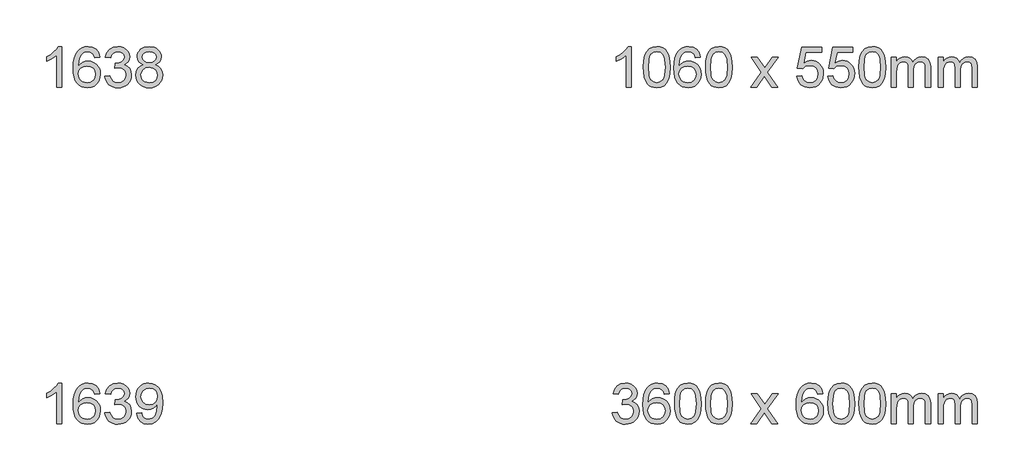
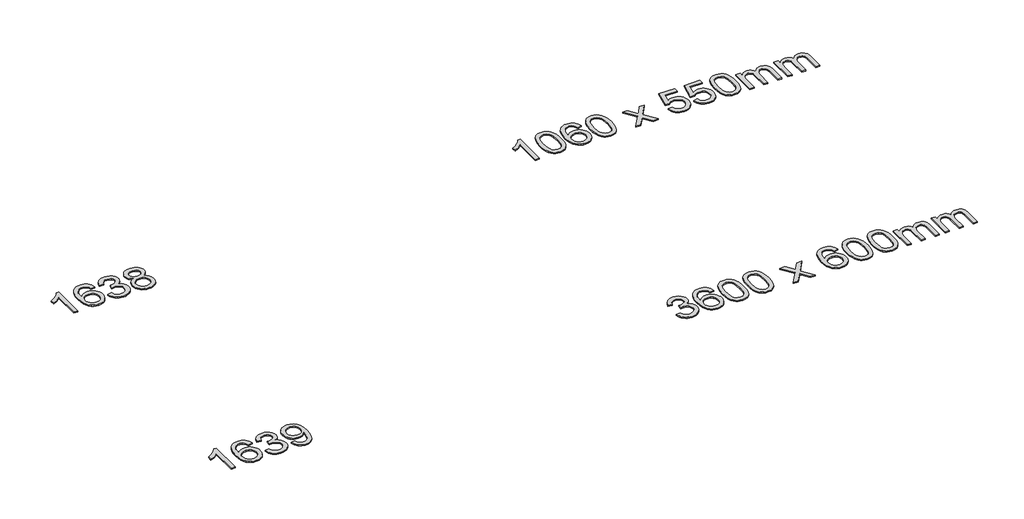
# One storey, part 36 of 39: 4 proxies.
"""IFC4 building model written with IfcOpenShell, lengths in millimetres."""

from ifc_helpers import new_model, si_unit, origin, origin_with_axes, place, context, project, spatial, polyline, outline, extrude, element, save

model = new_model("IFC4")

# Units and contexts
model_context = context("Model", 3, world=origin())
ifc_project = project(units=[si_unit("LENGTHUNIT", "METRE", prefix="MILLI")], contexts=[model_context])

# Site, building, storey
site = spatial("IfcSite", under=ifc_project)
building = spatial("IfcBuilding", under=site)
storey = spatial("IfcBuildingStorey", under=building, Name="Marelli - Linha PROFIT - Planta Baixa", Elevation=0.0)

# Proxies
placement = place(None, origin())
element("IfcBuildingElementProxy", 1, Name="300mm Arial", ObjectType="300mm Arial", at=placement, inside=storey, context=model_context, shape_type="SweptSolid", body=[
    extrude(outline(polyline([(24682.3108242, 6719.4336799), (24644.6397079, 6719.4336799), (24644.6397079, 6954.2895457), (24608.9551543, 6928.8688998), (24569.2974753, 6909.8494006), (24569.2974753, 6945.4603778), (24598.8843847, 6961.5552151), (24624.5165627, 6980.7034729), (24644.7224813, 7001.0657413), (24658.0306125, 7020.8026104), (24682.3108242, 7020.8026104), (24682.3108242, 6719.4336799)])), origin_with_axes(), (0.0, 0.0, 1.0), 10.0),
    extrude(outline(polyline([(24771.7797254, 6867.690124), (24774.5480374, 6915.9286506), (24782.8529735, 6954.3999103), (24796.6117601, 6983.6925141), (24815.7416238, 7004.3950734), (24840.3805205, 7016.7007261), (24870.6664057, 7020.8026104), (24893.8797596, 7018.3745892), (24914.6650923, 7011.0905257), (24932.0475166, 6999.2355284), (24945.0521451, 6983.0947059), (24954.8745944, 6962.8060138), (24962.7104809, 6938.5074081), (24967.8424347, 6907.6513057), (24969.553086, 6867.690124), (24966.8123652, 6819.7275089), (24958.5902026, 6781.3482197), (24944.9141894, 6752.0280247), (24925.8119168, 6731.242692), (24901.1178379, 6718.8542658), (24870.6664057, 6714.7247904), (24849.9178612, 6716.5182151), (24831.5237614, 6721.8984893), (24815.4841064, 6730.8656129), (24801.7988962, 6743.419586), (24788.665509, 6766.1133066), (24779.2845181, 6794.3896364), (24773.6559236, 6828.2485756), (24771.7797254, 6867.690124)]), holes=[polyline([(24809.4508417, 6867.7637004), (24813.8654257, 6808.507108), (24819.3836556, 6788.2391093), (24827.1091775, 6774.211309), (24846.8276524, 6757.8497573), (24870.6664057, 6752.3959067), (24894.505159, 6757.8681514), (24914.2236339, 6774.2848854), (24921.9491558, 6788.3356784), (24927.4673858, 6808.5990785), (24931.8819697, 6867.7637004), (24927.6145386, 6925.6867205), (24922.2802496, 6945.8880406), (24914.8122451, 6960.249234), (24895.1305584, 6977.410929), (24870.2249473, 6983.1314941), (24846.6437114, 6978.0915107), (24827.6977887, 6962.9715607), (24819.7147494, 6947.3365759), (24814.0125785, 6926.2569376), (24809.4508417, 6867.7637004)])]), origin_with_axes(), (0.0, 0.0, 1.0), 10.0),
    extrude(outline(polyline([(25195.5797839, 6940.7514882), (25157.9086676, 6936.0425987), (25151.8386146, 6954.7126099), (25143.6348461, 6967.4597211), (25126.5467275, 6979.2135508), (25105.8901534, 6983.1314941), (25088.3789705, 6980.8506257), (25071.8978571, 6974.0080206), (25057.7435973, 6959.5962434), (25046.1829056, 6939.7582068), (25038.3746103, 6911.6980077), (25035.4775396, 6872.6197427), (25050.5882925, 6890.2504873), (25068.6972837, 6902.6757017), (25088.7928377, 6910.0425387), (25109.863279, 6912.498151), (25127.9630731, 6910.8196894), (25144.6649157, 6905.7843046), (25159.9688067, 6897.3919966), (25173.8747461, 6885.6427654), (25185.4308393, 6871.2355867), (25193.6851916, 6854.8694365), (25198.6378029, 6836.5443146), (25200.2886734, 6816.2602211), (25197.1800705, 6789.2852738), (25187.854262, 6764.2784951), (25173.0837999, 6743.0700981), (25153.6412364, 6727.4902956), (25130.4094884, 6717.9161667), (25104.2714727, 6714.7247904), (25081.8145761, 6716.8401119), (25061.5327819, 6723.1860763), (25043.4260899, 6733.7626836), (25027.4945003, 6748.5699339), (25014.5059666, 6768.2332266), (25005.2284425, 6793.377961), (24999.6619281, 6824.0041371), (24997.8064233, 6860.1117549), (24999.8665624, 6900.5925699), (25006.0469799, 6935.1412878), (25016.3476758, 6963.7579085), (25030.76865, 6986.442432), (25046.3990363, 7001.4750101), (25064.5218231, 7012.2125658), (25085.1370104, 7018.6550992), (25108.2445982, 7020.8026104), (25141.2987955, 7015.4867156), (25167.767905, 6999.5390311), (25186.3091576, 6974.2103557), (25195.5797839, 6940.7514882)]), holes=[polyline([(25035.4775396, 6816.8488323), (25037.6572404, 6800.1561867), (25044.1963428, 6784.2176993), (25054.3498859, 6770.514095), (25067.3729085, 6760.5260988), (25083.0906668, 6754.4284547), (25101.3284167, 6752.3959067), (25126.1880425, 6756.6081555), (25145.7317735, 6769.2449021), (25158.3961112, 6789.1105298), (25162.6175571, 6815.0094223), (25158.4512935, 6839.8690481), (25145.9525027, 6858.8241679), (25126.0776779, 6870.826318), (25099.7833123, 6874.8270347), (25074.9604747, 6870.826318), (25054.2027331, 6858.8241679), (25040.1588379, 6840.3289006), (25035.4775396, 6816.8488323)])]), origin_with_axes(), (0.0, 0.0, 1.0), 10.0),
    extrude(outline(polyline([(25233.2509002, 6867.690124), (25236.0192122, 6915.9286506), (25244.3241482, 6954.3999103), (25258.0829348, 6983.6925141), (25277.2127986, 7004.3950734), (25301.8516952, 7016.7007261), (25332.1375805, 7020.8026104), (25355.3509344, 7018.3745892), (25376.1362671, 7011.0905257), (25393.5186914, 6999.2355284), (25406.5233199, 6983.0947059), (25416.3457692, 6962.8060138), (25424.1816557, 6938.5074081), (25429.3136095, 6907.6513057), (25431.0242608, 6867.690124), (25428.2835399, 6819.7275089), (25420.0613773, 6781.3482197), (25406.3853641, 6752.0280247), (25387.2830915, 6731.242692), (25362.5890126, 6718.8542658), (25332.1375805, 6714.7247904), (25311.3890359, 6716.5182151), (25292.9949362, 6721.8984893), (25276.9552812, 6730.8656129), (25263.270071, 6743.419586), (25250.1366837, 6766.1133066), (25240.7556929, 6794.3896364), (25235.1270983, 6828.2485756), (25233.2509002, 6867.690124)]), holes=[polyline([(25270.9220165, 6867.7637004), (25275.3366004, 6808.507108), (25280.8548303, 6788.2391093), (25288.5803522, 6774.211309), (25308.2988272, 6757.8497573), (25332.1375805, 6752.3959067), (25355.9763338, 6757.8681514), (25375.6948087, 6774.2848854), (25383.4203306, 6788.3356784), (25388.9385605, 6808.5990785), (25393.3531445, 6867.7637004), (25389.0857133, 6925.6867205), (25383.7514244, 6945.8880406), (25376.2834199, 6960.249234), (25356.6017331, 6977.410929), (25331.6961221, 6983.1314941), (25308.1148862, 6978.0915107), (25289.1689634, 6962.9715607), (25281.1859241, 6947.3365759), (25275.4837532, 6926.2569376), (25270.9220165, 6867.7637004)])]), origin_with_axes(), (0.0, 0.0, 1.0), 10.0),
    extrude(outline(polyline([(25567.5820574, 6719.4336799), (25648.0746379, 6830.6811953), (25572.2909469, 6940.7514882), (25617.6140087, 6940.7514882), (25654.181479, 6887.7764809), (25671.2512036, 6862.7605053), (25686.0400598, 6883.2147442), (25727.6843017, 6940.7514882), (25773.0073635, 6940.7514882), (25693.3976997, 6830.6811953), (25770.0643075, 6719.4336799), (25724.7412457, 6719.4336799), (25678.6088435, 6786.3146267), (25670.1475576, 6798.5283089), (25612.9051192, 6719.4336799), (25567.5820574, 6719.4336799)])), origin_with_axes(), (0.0, 0.0, 1.0), 10.0),
    extrude(outline(polyline([(25911.3309937, 6799.4848021), (25949.00211, 6804.1936916), (25955.9182915, 6781.578146), (25967.9848209, 6765.3821411), (25985.146516, 6755.6424653), (26007.3481944, 6752.3959067), (26034.3507329, 6756.9116582), (26054.5842426, 6770.4589127), (26067.2209891, 6791.4741716), (26071.433238, 6818.3939366), (26067.4877036, 6843.7410061), (26055.6511004, 6863.1283872), (26035.8314579, 6875.43404), (26007.9368056, 6879.5359242), (25989.6622675, 6877.8988494), (25974.8642142, 6872.9876247), (25953.7109995, 6855.9914765), (25916.0398832, 6860.7003661), (25949.00211, 7016.0937208), (26094.9776857, 7016.0937208), (26094.9776857, 6978.4226045), (25979.4627392, 6978.4226045), (25963.3495078, 6895.4284264), (25990.2600757, 6911.762387), (26018.4582307, 6917.2070405), (26036.8040459, 6915.5193819), (26053.6553406, 6910.4564059), (26069.0121146, 6902.0181127), (26082.874368, 6890.2045021), (26094.349987, 6875.7375426), (26102.5468577, 6859.3392027), (26107.4649801, 6841.0094823), (26109.1043543, 6820.7483814), (26103.1998483, 6783.0772651), (26095.8192157, 6766.283452), (26085.4863302, 6750.8508023), (26069.8329513, 6735.0456721), (26051.5676102, 6723.7562934), (26030.690307, 6716.9826661), (26007.2010416, 6714.7247904), (25970.20131, 6720.5281289), (25954.5226392, 6727.782302), (25940.7247651, 6737.9381443), (25929.2445476, 6750.4898181), (25920.5188465, 6764.9314857), (25911.3309937, 6799.4848021)])), origin_with_axes(), (0.0, 0.0, 1.0), 10.0),
    extrude(outline(polyline([(26142.066581, 6799.4848021), (26179.7376974, 6804.1936916), (26186.6538789, 6781.578146), (26198.7204083, 6765.3821411), (26215.8821034, 6755.6424653), (26238.0837818, 6752.3959067), (26265.0863202, 6756.9116582), (26285.31983, 6770.4589127), (26297.9565765, 6791.4741716), (26302.1688253, 6818.3939366), (26298.223291, 6843.7410061), (26286.3866878, 6863.1283872), (26266.5670453, 6875.43404), (26238.672393, 6879.5359242), (26220.3978549, 6877.8988494), (26205.5998016, 6872.9876247), (26184.4465869, 6855.9914765), (26146.7754706, 6860.7003661), (26179.7376974, 7016.0937208), (26325.713273, 7016.0937208), (26325.713273, 6978.4226045), (26210.1983266, 6978.4226045), (26194.0850952, 6895.4284264), (26220.9956631, 6911.762387), (26249.193818, 6917.2070405), (26267.5396333, 6915.5193819), (26284.3909279, 6910.4564059), (26299.747702, 6902.0181127), (26313.6099554, 6890.2045021), (26325.0855744, 6875.7375426), (26333.2824451, 6859.3392027), (26338.2005675, 6841.0094823), (26339.8399417, 6820.7483814), (26333.9354356, 6783.0772651), (26326.5548031, 6766.283452), (26316.2219176, 6750.8508023), (26300.5685387, 6735.0456721), (26282.3031976, 6723.7562934), (26261.4258944, 6716.9826661), (26237.936629, 6714.7247904), (26200.9368973, 6720.5281289), (26185.2582265, 6727.782302), (26171.4603525, 6737.9381443), (26159.980135, 6750.4898181), (26151.2544339, 6764.9314857), (26142.066581, 6799.4848021)])), origin_with_axes(), (0.0, 0.0, 1.0), 10.0),
    extrude(outline(polyline([(26372.8021684, 6867.690124), (26375.5704804, 6915.9286506), (26383.8754165, 6954.3999103), (26397.6342031, 6983.6925141), (26416.7640668, 7004.3950734), (26441.4029635, 7016.7007261), (26471.6888487, 7020.8026104), (26494.9022026, 7018.3745892), (26515.6875353, 7011.0905257), (26533.0699596, 6999.2355284), (26546.0745882, 6983.0947059), (26555.8970374, 6962.8060138), (26563.7329239, 6938.5074081), (26568.8648778, 6907.6513057), (26570.575529, 6867.690124), (26567.8348082, 6819.7275089), (26559.6126456, 6781.3482197), (26545.9366324, 6752.0280247), (26526.8343598, 6731.242692), (26502.1402809, 6718.8542658), (26471.6888487, 6714.7247904), (26450.9403042, 6716.5182151), (26432.5462044, 6721.8984893), (26416.5065495, 6730.8656129), (26402.8213392, 6743.419586), (26389.687952, 6766.1133066), (26380.3069611, 6794.3896364), (26374.6783666, 6828.2485756), (26372.8021684, 6867.690124)]), holes=[polyline([(26410.4732847, 6867.7637004), (26414.8878687, 6808.507108), (26420.4060986, 6788.2391093), (26428.1316205, 6774.211309), (26447.8500954, 6757.8497573), (26471.6888487, 6752.3959067), (26495.527602, 6757.8681514), (26515.246077, 6774.2848854), (26522.9715989, 6788.3356784), (26528.4898288, 6808.5990785), (26532.9044127, 6867.7637004), (26528.6369816, 6925.6867205), (26523.3026926, 6945.8880406), (26515.8346881, 6960.249234), (26496.1530014, 6977.410929), (26471.2473903, 6983.1314941), (26447.6661544, 6978.0915107), (26428.7202317, 6962.9715607), (26420.7371924, 6947.3365759), (26415.0350215, 6926.2569376), (26410.4732847, 6867.7637004)])]), origin_with_axes(), (0.0, 0.0, 1.0), 10.0),
    extrude(outline(polyline([(26612.9555349, 6719.4336799), (26612.9555349, 6940.7514882), (26650.6266512, 6940.7514882), (26650.6266512, 6904.3311707), (26661.9574166, 6921.0606044), (26676.5255436, 6934.1664005), (26693.8343915, 6942.6368835), (26713.3873196, 6945.4603778), (26734.3381992, 6942.5817012), (26751.1320123, 6933.9456713), (26763.6767883, 6920.1225054), (26771.8805568, 6901.6824203), (26785.6117523, 6920.8352767), (26801.2743282, 6934.5158884), (26818.8682846, 6942.7242554), (26838.3936215, 6945.4603778), (26866.7113381, 6940.9078381), (26887.6530207, 6927.250219), (26900.5932699, 6904.1196386), (26904.9066862, 6871.1482147), (26904.9066862, 6719.4336799), (26867.2355699, 6719.4336799), (26867.2355699, 6854.961407), (26863.740691, 6886.4153175), (26858.8294664, 6895.0881356), (26851.0855504, 6901.9031495), (26841.1251453, 6906.3177335), (26829.5644536, 6907.7892615), (26809.1562, 6904.018471), (26792.5187367, 6892.7060997), (26781.4546857, 6873.0795952), (26777.7666687, 6844.3664055), (26777.7666687, 6719.4336799), (26740.0955524, 6719.4336799), (26740.0955524, 6859.1552617), (26737.9158516, 6880.4556292), (26731.3767491, 6895.6491556), (26719.8712397, 6904.754235), (26702.7923181, 6907.7892615), (26688.2793734, 6905.7659105), (26674.9068629, 6899.6958576), (26663.870403, 6889.7262555), (26656.3656103, 6876.0042571), (26652.061391, 6856.9663638), (26650.6266512, 6831.0490773), (26650.6266512, 6719.4336799), (26612.9555349, 6719.4336799)])), origin_with_axes(), (0.0, 0.0, 1.0), 10.0),
    extrude(outline(polyline([(26961.4133607, 6719.4336799), (26961.4133607, 6940.7514882), (26999.084477, 6940.7514882), (26999.084477, 6904.3311707), (27010.4152425, 6921.0606044), (27024.9833695, 6934.1664005), (27042.2922173, 6942.6368835), (27061.8451454, 6945.4603778), (27082.796025, 6942.5817012), (27099.5898381, 6933.9456713), (27112.1346141, 6920.1225054), (27120.3383826, 6901.6824203), (27134.0695781, 6920.8352767), (27149.732154, 6934.5158884), (27167.3261105, 6942.7242554), (27186.8514474, 6945.4603778), (27215.1691639, 6940.9078381), (27236.1108465, 6927.250219), (27249.0510957, 6904.1196386), (27253.3645121, 6871.1482147), (27253.3645121, 6719.4336799), (27215.6933958, 6719.4336799), (27215.6933958, 6854.961407), (27212.1985168, 6886.4153175), (27207.2872922, 6895.0881356), (27199.5433762, 6901.9031495), (27189.5829712, 6906.3177335), (27178.0222795, 6907.7892615), (27157.6140258, 6904.018471), (27140.9765626, 6892.7060997), (27129.9125115, 6873.0795952), (27126.2244945, 6844.3664055), (27126.2244945, 6719.4336799), (27088.5533782, 6719.4336799), (27088.5533782, 6859.1552617), (27086.3736774, 6880.4556292), (27079.834575, 6895.6491556), (27068.3290656, 6904.754235), (27051.2501439, 6907.7892615), (27036.7371992, 6905.7659105), (27023.3646887, 6899.6958576), (27012.3282288, 6889.7262555), (27004.8234361, 6876.0042571), (27000.5192168, 6856.9663638), (26999.084477, 6831.0490773), (26999.084477, 6719.4336799), (26961.4133607, 6719.4336799)])), origin_with_axes(), (0.0, 0.0, 1.0), 10.0),
])
element("IfcBuildingElementProxy", 2, Name="300mm Arial", ObjectType="300mm Arial", at=placement, inside=storey, context=model_context, shape_type="SweptSolid", body=[
    extrude(outline(polyline([(24541.044138, 4299.4848021), (24578.7152543, 4304.1936916), (24587.1489491, 4280.5204852), (24599.5005871, 4264.5360125), (24616.3771736, 4255.4309332), (24638.385714, 4252.3959067), (24664.21103, 4256.5713673), (24684.1502342, 4269.0977493), (24696.8973453, 4287.7861546), (24701.1463823, 4310.4476855), (24696.9341335, 4331.9595852), (24684.297387, 4349.4063888), (24665.1675232, 4360.9670805), (24641.4759227, 4364.8206444), (24615.0619955, 4360.7003661), (24619.2558502, 4398.3714824), (24625.2891149, 4397.930024), (24647.8586753, 4400.6339567), (24668.0370028, 4408.7457546), (24682.274036, 4422.4677531), (24687.0197137, 4442.002287), (24683.5800171, 4458.2718683), (24673.2609271, 4471.4696348), (24657.5155777, 4480.2160293), (24637.7971028, 4483.1314941), (24618.0418396, 4480.1884381), (24601.89182, 4471.3592702), (24590.1012021, 4456.6439904), (24583.4241439, 4436.0425987), (24545.7530276, 4440.7514882), (24556.8446697, 4474.5782377), (24576.5815388, 4499.8333367), (24603.5840772, 4515.5602919), (24636.4727276, 4520.8026104), (24660.155131, 4518.2182394), (24681.906154, 4510.4651263), (24700.2450715, 4498.23305), (24713.6911584, 4482.2117891), (24721.9409121, 4463.75331), (24724.69083, 4444.209579), (24722.0788679, 4425.9994202), (24714.2429814, 4409.4815186), (24701.2935351, 4395.4100323), (24683.3408938, 4384.5391194), (24706.9221297, 4375.0109757), (24724.3965244, 4358.7873797), (24735.2122551, 4336.7512482), (24738.8174986, 4309.7854979), (24737.0148769, 4290.6740283), (24731.6070115, 4273.0708748), (24722.5939027, 4256.9760375), (24709.9755502, 4242.3895164), (24694.6026814, 4230.2861988), (24677.3260232, 4221.6409719), (24658.1455756, 4216.4538358), (24637.0613388, 4214.7247904), (24618.0050514, 4216.2009169), (24600.6410213, 4220.6292964), (24584.9692483, 4228.0099289), (24570.9897324, 4238.3428145), (24559.2680924, 4251.0209477), (24550.3699466, 4265.4373234), (24544.2952952, 4281.5919415), (24541.044138, 4299.4848021)])), origin_with_axes(), (0.0, 0.0, 1.0), 10.0),
    extrude(outline(polyline([(24964.8441965, 4440.7514882), (24927.1730802, 4436.0425987), (24921.1030273, 4454.7126099), (24912.8992588, 4467.4597211), (24895.8111401, 4479.2135508), (24875.1545661, 4483.1314941), (24857.6433831, 4480.8506257), (24841.1622697, 4474.0080206), (24827.0080099, 4459.5962434), (24815.4473182, 4439.7582068), (24807.6390229, 4411.6980077), (24804.7419522, 4372.6197427), (24819.8527051, 4390.2504873), (24837.9616963, 4402.6757017), (24858.0572503, 4410.0425387), (24879.1276916, 4412.498151), (24897.2274858, 4410.8196894), (24913.9293283, 4405.7843046), (24929.2332193, 4397.3919966), (24943.1391588, 4385.6427654), (24954.6952519, 4371.2355867), (24962.9496042, 4354.8694365), (24967.9022156, 4336.5443146), (24969.553086, 4316.2602211), (24966.4444832, 4289.2852738), (24957.1186746, 4264.2784951), (24942.3482125, 4243.0700981), (24922.905649, 4227.4902956), (24899.673901, 4217.9161667), (24873.5358853, 4214.7247904), (24851.0789887, 4216.8401119), (24830.7971945, 4223.1860763), (24812.6905025, 4233.7626836), (24796.7589129, 4248.5699339), (24783.7703792, 4268.2332266), (24774.4928551, 4293.377961), (24768.9263407, 4324.0041371), (24767.0708359, 4360.1117549), (24769.130975, 4400.5925699), (24775.3113926, 4435.1412878), (24785.6120884, 4463.7579085), (24800.0330626, 4486.442432), (24815.6634489, 4501.4750101), (24833.7862357, 4512.2125658), (24854.401423, 4518.6550992), (24877.5090108, 4520.8026104), (24910.5632081, 4515.4867156), (24937.0323176, 4499.5390311), (24955.5735702, 4474.2103557), (24964.8441965, 4440.7514882)]), holes=[polyline([(24804.7419522, 4316.8488323), (24806.921653, 4300.1561867), (24813.4607555, 4284.2176993), (24823.6142985, 4270.514095), (24836.6373212, 4260.5260988), (24852.3550794, 4254.4284547), (24870.5928293, 4252.3959067), (24895.4524551, 4256.6081555), (24914.9961861, 4269.2449021), (24927.6605238, 4289.1105298), (24931.8819697, 4315.0094223), (24927.7157061, 4339.8690481), (24915.2169153, 4358.8241679), (24895.3420905, 4370.826318), (24869.0477249, 4374.8270347), (24844.2248873, 4370.826318), (24823.4671457, 4358.8241679), (24809.4232506, 4340.3289006), (24804.7419522, 4316.8488323)])]), origin_with_axes(), (0.0, 0.0, 1.0), 10.0),
    extrude(outline(polyline([(25002.5153128, 4367.690124), (25005.2836248, 4415.9286506), (25013.5885608, 4454.3999103), (25027.3473475, 4483.6925141), (25046.4772112, 4504.3950734), (25071.1161078, 4516.7007261), (25101.4019931, 4520.8026104), (25124.615347, 4518.3745892), (25145.4006797, 4511.0905257), (25162.783104, 4499.2355284), (25175.7877325, 4483.0947059), (25185.6101818, 4462.8060138), (25193.4460683, 4438.5074081), (25198.5780221, 4407.6513057), (25200.2886734, 4367.690124), (25197.5479525, 4319.7275089), (25189.3257899, 4281.3482197), (25175.6497768, 4252.0280247), (25156.5475042, 4231.242692), (25131.8534252, 4218.8542658), (25101.4019931, 4214.7247904), (25080.6534486, 4216.5182151), (25062.2593488, 4221.8984893), (25046.2196938, 4230.8656129), (25032.5344836, 4243.419586), (25019.4010964, 4266.1133066), (25010.0201055, 4294.3896364), (25004.391511, 4328.2485756), (25002.5153128, 4367.690124)]), holes=[polyline([(25040.1864291, 4367.7637004), (25044.601013, 4308.507108), (25050.119243, 4288.2391093), (25057.8447649, 4274.211309), (25077.5632398, 4257.8497573), (25101.4019931, 4252.3959067), (25125.2407464, 4257.8681514), (25144.9592213, 4274.2848854), (25152.6847432, 4288.3356784), (25158.2029731, 4308.5990785), (25162.6175571, 4367.7637004), (25158.3501259, 4425.6867205), (25153.015837, 4445.8880406), (25145.5478325, 4460.249234), (25125.8661458, 4477.410929), (25100.9605347, 4483.1314941), (25077.3792988, 4478.0915107), (25058.4333761, 4462.9715607), (25050.4503368, 4447.3365759), (25044.7481658, 4426.2569376), (25040.1864291, 4367.7637004)])]), origin_with_axes(), (0.0, 0.0, 1.0), 10.0),
    extrude(outline(polyline([(25233.2509002, 4367.690124), (25236.0192122, 4415.9286506), (25244.3241482, 4454.3999103), (25258.0829348, 4483.6925141), (25277.2127986, 4504.3950734), (25301.8516952, 4516.7007261), (25332.1375805, 4520.8026104), (25355.3509344, 4518.3745892), (25376.1362671, 4511.0905257), (25393.5186914, 4499.2355284), (25406.5233199, 4483.0947059), (25416.3457692, 4462.8060138), (25424.1816557, 4438.5074081), (25429.3136095, 4407.6513057), (25431.0242608, 4367.690124), (25428.2835399, 4319.7275089), (25420.0613773, 4281.3482197), (25406.3853641, 4252.0280247), (25387.2830915, 4231.242692), (25362.5890126, 4218.8542658), (25332.1375805, 4214.7247904), (25311.3890359, 4216.5182151), (25292.9949362, 4221.8984893), (25276.9552812, 4230.8656129), (25263.270071, 4243.419586), (25250.1366837, 4266.1133066), (25240.7556929, 4294.3896364), (25235.1270983, 4328.2485756), (25233.2509002, 4367.690124)]), holes=[polyline([(25270.9220165, 4367.7637004), (25275.3366004, 4308.507108), (25280.8548303, 4288.2391093), (25288.5803522, 4274.211309), (25308.2988272, 4257.8497573), (25332.1375805, 4252.3959067), (25355.9763338, 4257.8681514), (25375.6948087, 4274.2848854), (25383.4203306, 4288.3356784), (25388.9385605, 4308.5990785), (25393.3531445, 4367.7637004), (25389.0857133, 4425.6867205), (25383.7514244, 4445.8880406), (25376.2834199, 4460.249234), (25356.6017331, 4477.410929), (25331.6961221, 4483.1314941), (25308.1148862, 4478.0915107), (25289.1689634, 4462.9715607), (25281.1859241, 4447.3365759), (25275.4837532, 4426.2569376), (25270.9220165, 4367.7637004)])]), origin_with_axes(), (0.0, 0.0, 1.0), 10.0),
    extrude(outline(polyline([(25567.5820574, 4219.4336799), (25648.0746379, 4330.6811953), (25572.2909469, 4440.7514882), (25617.6140087, 4440.7514882), (25654.181479, 4387.7764809), (25671.2512036, 4362.7605053), (25686.0400598, 4383.2147442), (25727.6843017, 4440.7514882), (25773.0073635, 4440.7514882), (25693.3976997, 4330.6811953), (25770.0643075, 4219.4336799), (25724.7412457, 4219.4336799), (25678.6088435, 4286.3146267), (25670.1475576, 4298.5283089), (25612.9051192, 4219.4336799), (25567.5820574, 4219.4336799)])), origin_with_axes(), (0.0, 0.0, 1.0), 10.0),
    extrude(outline(polyline([(26104.3954647, 4440.7514882), (26066.7243484, 4436.0425987), (26060.6542955, 4454.7126099), (26052.450527, 4467.4597211), (26035.3624083, 4479.2135508), (26014.7058343, 4483.1314941), (25997.1946513, 4480.8506257), (25980.713538, 4474.0080206), (25966.5592782, 4459.5962434), (25954.9985865, 4439.7582068), (25947.1902912, 4411.6980077), (25944.2932204, 4372.6197427), (25959.4039734, 4390.2504873), (25977.5129646, 4402.6757017), (25997.6085186, 4410.0425387), (26018.6789599, 4412.498151), (26036.778754, 4410.8196894), (26053.4805966, 4405.7843046), (26068.7844876, 4397.3919966), (26082.690427, 4385.6427654), (26094.2465202, 4371.2355867), (26102.5008725, 4354.8694365), (26107.4534838, 4336.5443146), (26109.1043543, 4316.2602211), (26105.9957514, 4289.2852738), (26096.6699428, 4264.2784951), (26081.8994807, 4243.0700981), (26062.4569173, 4227.4902956), (26039.2251693, 4217.9161667), (26013.0871535, 4214.7247904), (25990.630257, 4216.8401119), (25970.3484627, 4223.1860763), (25952.2417708, 4233.7626836), (25936.3101811, 4248.5699339), (25923.3216475, 4268.2332266), (25914.0441234, 4293.377961), (25908.4776089, 4324.0041371), (25906.6221041, 4360.1117549), (25908.6822433, 4400.5925699), (25914.8626608, 4435.1412878), (25925.1633567, 4463.7579085), (25939.5843309, 4486.442432), (25955.2147172, 4501.4750101), (25973.337504, 4512.2125658), (25993.9526913, 4518.6550992), (26017.0602791, 4520.8026104), (26050.1144764, 4515.4867156), (26076.5835859, 4499.5390311), (26095.1248385, 4474.2103557), (26104.3954647, 4440.7514882)]), holes=[polyline([(25944.2932204, 4316.8488323), (25946.4729213, 4300.1561867), (25953.0120237, 4284.2176993), (25963.1655668, 4270.514095), (25976.1885894, 4260.5260988), (25991.9063477, 4254.4284547), (26010.1440976, 4252.3959067), (26035.0037234, 4256.6081555), (26054.5474544, 4269.2449021), (26067.2117921, 4289.1105298), (26071.433238, 4315.0094223), (26067.2669744, 4339.8690481), (26054.7681836, 4358.8241679), (26034.8933588, 4370.826318), (26008.5989932, 4374.8270347), (25983.7761556, 4370.826318), (25963.018414, 4358.8241679), (25948.9745188, 4340.3289006), (25944.2932204, 4316.8488323)])]), origin_with_axes(), (0.0, 0.0, 1.0), 10.0),
    extrude(outline(polyline([(26142.066581, 4367.690124), (26144.8348931, 4415.9286506), (26153.1398291, 4454.3999103), (26166.8986157, 4483.6925141), (26186.0284795, 4504.3950734), (26210.6673761, 4516.7007261), (26240.9532614, 4520.8026104), (26264.1666152, 4518.3745892), (26284.951948, 4511.0905257), (26302.3343722, 4499.2355284), (26315.3390008, 4483.0947059), (26325.16145, 4462.8060138), (26332.9973365, 4438.5074081), (26338.1292904, 4407.6513057), (26339.8399417, 4367.690124), (26337.0992208, 4319.7275089), (26328.8770582, 4281.3482197), (26315.201045, 4252.0280247), (26296.0987724, 4231.242692), (26271.4046935, 4218.8542658), (26240.9532614, 4214.7247904), (26220.2047168, 4216.5182151), (26201.8106171, 4221.8984893), (26185.7709621, 4230.8656129), (26172.0857519, 4243.419586), (26158.9523646, 4266.1133066), (26149.5713737, 4294.3896364), (26143.9427792, 4328.2485756), (26142.066581, 4367.690124)]), holes=[polyline([(26179.7376974, 4367.7637004), (26184.1522813, 4308.507108), (26189.6705112, 4288.2391093), (26197.3960331, 4274.211309), (26217.1145081, 4257.8497573), (26240.9532614, 4252.3959067), (26264.7920146, 4257.8681514), (26284.5104896, 4274.2848854), (26292.2360115, 4288.3356784), (26297.7542414, 4308.5990785), (26302.1688253, 4367.7637004), (26297.9013942, 4425.6867205), (26292.5671053, 4445.8880406), (26285.0991008, 4460.249234), (26265.417414, 4477.410929), (26240.511803, 4483.1314941), (26216.9305671, 4478.0915107), (26197.9846443, 4462.9715607), (26190.001605, 4447.3365759), (26184.2994341, 4426.2569376), (26179.7376974, 4367.7637004)])]), origin_with_axes(), (0.0, 0.0, 1.0), 10.0),
    extrude(outline(polyline([(26372.8021684, 4367.690124), (26375.5704804, 4415.9286506), (26383.8754165, 4454.3999103), (26397.6342031, 4483.6925141), (26416.7640668, 4504.3950734), (26441.4029635, 4516.7007261), (26471.6888487, 4520.8026104), (26494.9022026, 4518.3745892), (26515.6875353, 4511.0905257), (26533.0699596, 4499.2355284), (26546.0745882, 4483.0947059), (26555.8970374, 4462.8060138), (26563.7329239, 4438.5074081), (26568.8648778, 4407.6513057), (26570.575529, 4367.690124), (26567.8348082, 4319.7275089), (26559.6126456, 4281.3482197), (26545.9366324, 4252.0280247), (26526.8343598, 4231.242692), (26502.1402809, 4218.8542658), (26471.6888487, 4214.7247904), (26450.9403042, 4216.5182151), (26432.5462044, 4221.8984893), (26416.5065495, 4230.8656129), (26402.8213392, 4243.419586), (26389.687952, 4266.1133066), (26380.3069611, 4294.3896364), (26374.6783666, 4328.2485756), (26372.8021684, 4367.690124)]), holes=[polyline([(26410.4732847, 4367.7637004), (26414.8878687, 4308.507108), (26420.4060986, 4288.2391093), (26428.1316205, 4274.211309), (26447.8500954, 4257.8497573), (26471.6888487, 4252.3959067), (26495.527602, 4257.8681514), (26515.246077, 4274.2848854), (26522.9715989, 4288.3356784), (26528.4898288, 4308.5990785), (26532.9044127, 4367.7637004), (26528.6369816, 4425.6867205), (26523.3026926, 4445.8880406), (26515.8346881, 4460.249234), (26496.1530014, 4477.410929), (26471.2473903, 4483.1314941), (26447.6661544, 4478.0915107), (26428.7202317, 4462.9715607), (26420.7371924, 4447.3365759), (26415.0350215, 4426.2569376), (26410.4732847, 4367.7637004)])]), origin_with_axes(), (0.0, 0.0, 1.0), 10.0),
    extrude(outline(polyline([(26612.9555349, 4219.4336799), (26612.9555349, 4440.7514882), (26650.6266512, 4440.7514882), (26650.6266512, 4404.3311707), (26661.9574166, 4421.0606044), (26676.5255436, 4434.1664005), (26693.8343915, 4442.6368835), (26713.3873196, 4445.4603778), (26734.3381992, 4442.5817012), (26751.1320123, 4433.9456713), (26763.6767883, 4420.1225054), (26771.8805568, 4401.6824203), (26785.6117523, 4420.8352767), (26801.2743282, 4434.5158884), (26818.8682846, 4442.7242554), (26838.3936215, 4445.4603778), (26866.7113381, 4440.9078381), (26887.6530207, 4427.250219), (26900.5932699, 4404.1196386), (26904.9066862, 4371.1482147), (26904.9066862, 4219.4336799), (26867.2355699, 4219.4336799), (26867.2355699, 4354.961407), (26863.740691, 4386.4153175), (26858.8294664, 4395.0881356), (26851.0855504, 4401.9031495), (26841.1251453, 4406.3177335), (26829.5644536, 4407.7892615), (26809.1562, 4404.018471), (26792.5187367, 4392.7060997), (26781.4546857, 4373.0795952), (26777.7666687, 4344.3664055), (26777.7666687, 4219.4336799), (26740.0955524, 4219.4336799), (26740.0955524, 4359.1552617), (26737.9158516, 4380.4556292), (26731.3767491, 4395.6491556), (26719.8712397, 4404.754235), (26702.7923181, 4407.7892615), (26688.2793734, 4405.7659105), (26674.9068629, 4399.6958576), (26663.870403, 4389.7262555), (26656.3656103, 4376.0042571), (26652.061391, 4356.9663638), (26650.6266512, 4331.0490773), (26650.6266512, 4219.4336799), (26612.9555349, 4219.4336799)])), origin_with_axes(), (0.0, 0.0, 1.0), 10.0),
    extrude(outline(polyline([(26961.4133607, 4219.4336799), (26961.4133607, 4440.7514882), (26999.084477, 4440.7514882), (26999.084477, 4404.3311707), (27010.4152425, 4421.0606044), (27024.9833695, 4434.1664005), (27042.2922173, 4442.6368835), (27061.8451454, 4445.4603778), (27082.796025, 4442.5817012), (27099.5898381, 4433.9456713), (27112.1346141, 4420.1225054), (27120.3383826, 4401.6824203), (27134.0695781, 4420.8352767), (27149.732154, 4434.5158884), (27167.3261105, 4442.7242554), (27186.8514474, 4445.4603778), (27215.1691639, 4440.9078381), (27236.1108465, 4427.250219), (27249.0510957, 4404.1196386), (27253.3645121, 4371.1482147), (27253.3645121, 4219.4336799), (27215.6933958, 4219.4336799), (27215.6933958, 4354.961407), (27212.1985168, 4386.4153175), (27207.2872922, 4395.0881356), (27199.5433762, 4401.9031495), (27189.5829712, 4406.3177335), (27178.0222795, 4407.7892615), (27157.6140258, 4404.018471), (27140.9765626, 4392.7060997), (27129.9125115, 4373.0795952), (27126.2244945, 4344.3664055), (27126.2244945, 4219.4336799), (27088.5533782, 4219.4336799), (27088.5533782, 4359.1552617), (27086.3736774, 4380.4556292), (27079.834575, 4395.6491556), (27068.3290656, 4404.754235), (27051.2501439, 4407.7892615), (27036.7371992, 4405.7659105), (27023.3646887, 4399.6958576), (27012.3282288, 4389.7262555), (27004.8234361, 4376.0042571), (27000.5192168, 4356.9663638), (26999.084477, 4331.0490773), (26999.084477, 4219.4336799), (26961.4133607, 4219.4336799)])), origin_with_axes(), (0.0, 0.0, 1.0), 10.0),
])
element("IfcBuildingElementProxy", 3, Name="300mm Arial", ObjectType="300mm Arial", at=placement, inside=storey, context=model_context, shape_type="SweptSolid", body=[
    extrude(outline(polyline([(20449.8598189, 6719.4336799), (20412.1887026, 6719.4336799), (20412.1887026, 6954.2895457), (20376.5041491, 6928.8688998), (20336.84647, 6909.8494006), (20336.84647, 6945.4603778), (20366.4333795, 6961.5552151), (20392.0655575, 6980.7034729), (20412.2714761, 7001.0657413), (20425.5796072, 7020.8026104), (20449.8598189, 7020.8026104), (20449.8598189, 6719.4336799)])), origin_with_axes(), (0.0, 0.0, 1.0), 10.0),
    extrude(outline(polyline([(20732.3931912, 6940.7514882), (20694.7220749, 6936.0425987), (20688.652022, 6954.7126099), (20680.4482535, 6967.4597211), (20663.3601348, 6979.2135508), (20642.7035608, 6983.1314941), (20625.1923778, 6980.8506257), (20608.7112644, 6974.0080206), (20594.5570047, 6959.5962434), (20582.996313, 6939.7582068), (20575.1880176, 6911.6980077), (20572.2909469, 6872.6197427), (20587.4016999, 6890.2504873), (20605.5106911, 6902.6757017), (20625.6062451, 6910.0425387), (20646.6766863, 6912.498151), (20664.7764805, 6910.8196894), (20681.4783231, 6905.7843046), (20696.7822141, 6897.3919966), (20710.6881535, 6885.6427654), (20722.2442467, 6871.2355867), (20730.4985989, 6854.8694365), (20735.4512103, 6836.5443146), (20737.1020808, 6816.2602211), (20733.9934779, 6789.2852738), (20724.6676693, 6764.2784951), (20709.8972072, 6743.0700981), (20690.4546438, 6727.4902956), (20667.2228958, 6717.9161667), (20641.08488, 6714.7247904), (20618.6279835, 6716.8401119), (20598.3461892, 6723.1860763), (20580.2394973, 6733.7626836), (20564.3079076, 6748.5699339), (20551.3193739, 6768.2332266), (20542.0418499, 6793.377961), (20536.4753354, 6824.0041371), (20534.6198306, 6860.1117549), (20536.6799698, 6900.5925699), (20542.8603873, 6935.1412878), (20553.1610832, 6963.7579085), (20567.5820574, 6986.442432), (20583.2124437, 7001.4750101), (20601.3352304, 7012.2125658), (20621.9504177, 7018.6550992), (20645.0580056, 7020.8026104), (20678.1122028, 7015.4867156), (20704.5813124, 6999.5390311), (20723.1225649, 6974.2103557), (20732.3931912, 6940.7514882)]), holes=[polyline([(20572.2909469, 6816.8488323), (20574.4706477, 6800.1561867), (20581.0097502, 6784.2176993), (20591.1632933, 6770.514095), (20604.1863159, 6760.5260988), (20619.9040741, 6754.4284547), (20638.1418241, 6752.3959067), (20663.0014499, 6756.6081555), (20682.5451809, 6769.2449021), (20695.2095186, 6789.1105298), (20699.4309645, 6815.0094223), (20695.2647009, 6839.8690481), (20682.7659101, 6858.8241679), (20662.8910853, 6870.826318), (20636.5967197, 6874.8270347), (20611.7738821, 6870.826318), (20591.0161405, 6858.8241679), (20576.9722453, 6840.3289006), (20572.2909469, 6816.8488323)])]), origin_with_axes(), (0.0, 0.0, 1.0), 10.0),
    extrude(outline(polyline([(20770.0643075, 6799.4848021), (20807.7354238, 6804.1936916), (20816.1691186, 6780.5204852), (20828.5207566, 6764.5360125), (20845.3973431, 6755.4309332), (20867.4058834, 6752.3959067), (20893.2311995, 6756.5713673), (20913.1704036, 6769.0977493), (20925.9175148, 6787.7861546), (20930.1665518, 6810.4476855), (20925.954303, 6831.9595852), (20913.3175564, 6849.4063888), (20894.1876927, 6860.9670805), (20870.4960922, 6864.8206444), (20844.082165, 6860.7003661), (20848.2760197, 6898.3714824), (20854.3092844, 6897.930024), (20876.8788448, 6900.6339567), (20897.0571723, 6908.7457546), (20911.2942055, 6922.4677531), (20916.0398832, 6942.002287), (20912.6001866, 6958.2718683), (20902.2810966, 6971.4696348), (20886.5357472, 6980.2160293), (20866.8172723, 6983.1314941), (20847.0620091, 6980.1884381), (20830.9119895, 6971.3592702), (20819.1213716, 6956.6439904), (20812.4443134, 6936.0425987), (20774.7731971, 6940.7514882), (20785.8648392, 6974.5782377), (20805.6017083, 6999.8333367), (20832.6042467, 7015.5602919), (20865.4928971, 7020.8026104), (20889.1753005, 7018.2182394), (20910.9263235, 7010.4651263), (20929.2652409, 6998.23305), (20942.7113279, 6982.2117891), (20950.9610816, 6963.75331), (20953.7109995, 6944.209579), (20951.0990374, 6925.9994202), (20943.2631509, 6909.4815186), (20930.3137046, 6895.4100323), (20912.3610633, 6884.5391194), (20935.9422992, 6875.0109757), (20953.4166939, 6858.7873797), (20964.2324246, 6836.7512482), (20967.8376681, 6809.7854979), (20966.0350464, 6790.6740283), (20960.627181, 6773.0708748), (20951.6140721, 6756.9760375), (20938.9957197, 6742.3895164), (20923.6228508, 6730.2861988), (20906.3461926, 6721.6409719), (20887.1657451, 6716.4538358), (20866.0815083, 6714.7247904), (20847.0252209, 6716.2009169), (20829.6611907, 6720.6292964), (20813.9894177, 6728.0099289), (20800.0099019, 6738.3428145), (20788.2882619, 6751.0209477), (20779.3901161, 6765.4373234), (20773.3154647, 6781.5919415), (20770.0643075, 6799.4848021)])), origin_with_axes(), (0.0, 0.0, 1.0), 10.0),
    extrude(outline(polyline([(21055.6878886, 6885.4220362), (21035.5187582, 6895.35485), (21021.3644984, 6908.819331), (21013.0043801, 6925.5395677), (21010.217674, 6945.2396486), (21011.7351872, 6960.6033204), (21016.2877269, 6974.6886023), (21023.875293, 6987.4954942), (21034.4978857, 6999.0239963), (21047.6450685, 7008.5521399), (21062.8064052, 7015.3579569), (21099.1715404, 7020.8026104), (21135.7574048, 7015.2291982), (21151.0842885, 7008.2624329), (21164.4338064, 6998.5089615), (21175.249537, 6986.7551317), (21182.9750589, 6973.7872914), (21187.6103721, 6959.6054405), (21189.1554764, 6944.209579), (21186.4055585, 6925.1440946), (21178.1558048, 6908.7089665), (21164.3142447, 6895.3272589), (21144.7889078, 6885.4220362), (21167.9746706, 6873.4750684), (21184.8512571, 6855.8811119), (21195.1427559, 6833.4862955), (21198.5732555, 6807.1367476), (21196.8718013, 6788.3471747), (21191.7674386, 6771.1211003), (21183.2601675, 6755.4585243), (21171.3499879, 6741.3594468), (21156.6622992, 6729.7067846), (21139.8225009, 6721.3834545), (21120.8305929, 6716.3894564), (21099.6865752, 6714.7247904), (21078.5425575, 6716.3963542), (21059.5506495, 6721.4110457), (21042.7108512, 6729.7688647), (21028.0231625, 6741.4698114), (21016.1129829, 6755.6677572), (21007.6057118, 6771.5165734), (21002.5013491, 6789.0162601), (21000.7998949, 6808.1668172), (21004.3683503, 6835.5372376), (21015.0737163, 6858.0516157), (21032.3641701, 6874.9373993), (21055.6878886, 6885.4220362)]), holes=[polyline([(21047.8887903, 6944.1360026), (21051.2273194, 6927.6916774), (21061.2429067, 6914.5582902), (21077.6412466, 6905.9498515), (21100.1280336, 6903.0803719), (21122.0905887, 6905.9314574), (21138.2406083, 6914.4847138), (21148.1734222, 6927.1766426), (21151.4843601, 6942.4437454), (21148.0630576, 6958.2902624), (21137.7991499, 6971.3960584), (21121.4284011, 6980.1976352), (21099.6865752, 6983.1314941), (21077.8067935, 6980.2620145), (21061.4636359, 6971.6535758), (21051.2825017, 6959.0352234), (21047.8887903, 6944.1360026)]), polyline([(21038.4710112, 6809.4911924), (21044.7617933, 6781.1274905), (21053.4713996, 6768.9597935), (21067.018654, 6759.9006994), (21083.24225, 6754.2721049), (21099.9808808, 6752.3959067), (21125.6222559, 6756.3414411), (21144.8624842, 6768.1780443), (21156.8922255, 6786.1030945), (21160.9021392, 6808.31397), (21156.7634668, 6830.9019245), (21144.3474494, 6849.2224478), (21124.6657627, 6861.3625537), (21098.730082, 6865.4092556), (21073.4473919, 6861.417736), (21054.4003016, 6849.443177), (21042.4533338, 6831.4721416), (21038.4710112, 6809.4911924)])]), origin_with_axes(), (0.0, 0.0, 1.0), 10.0),
])
element("IfcBuildingElementProxy", 4, Name="300mm Arial", ObjectType="300mm Arial", at=placement, inside=storey, context=model_context, shape_type="SweptSolid", body=[
    extrude(outline(polyline([(20449.8598189, 4219.4336799), (20412.1887026, 4219.4336799), (20412.1887026, 4454.2895457), (20376.5041491, 4428.8688998), (20336.84647, 4409.8494006), (20336.84647, 4445.4603778), (20366.4333795, 4461.5552151), (20392.0655575, 4480.7034729), (20412.2714761, 4501.0657413), (20425.5796072, 4520.8026104), (20449.8598189, 4520.8026104), (20449.8598189, 4219.4336799)])), origin_with_axes(), (0.0, 0.0, 1.0), 10.0),
    extrude(outline(polyline([(20732.3931912, 4440.7514882), (20694.7220749, 4436.0425987), (20688.652022, 4454.7126099), (20680.4482535, 4467.4597211), (20663.3601348, 4479.2135508), (20642.7035608, 4483.1314941), (20625.1923778, 4480.8506257), (20608.7112644, 4474.0080206), (20594.5570047, 4459.5962434), (20582.996313, 4439.7582068), (20575.1880176, 4411.6980077), (20572.2909469, 4372.6197427), (20587.4016999, 4390.2504873), (20605.5106911, 4402.6757017), (20625.6062451, 4410.0425387), (20646.6766863, 4412.498151), (20664.7764805, 4410.8196894), (20681.4783231, 4405.7843046), (20696.7822141, 4397.3919966), (20710.6881535, 4385.6427654), (20722.2442467, 4371.2355867), (20730.4985989, 4354.8694365), (20735.4512103, 4336.5443146), (20737.1020808, 4316.2602211), (20733.9934779, 4289.2852738), (20724.6676693, 4264.2784951), (20709.8972072, 4243.0700981), (20690.4546438, 4227.4902956), (20667.2228958, 4217.9161667), (20641.08488, 4214.7247904), (20618.6279835, 4216.8401119), (20598.3461892, 4223.1860763), (20580.2394973, 4233.7626836), (20564.3079076, 4248.5699339), (20551.3193739, 4268.2332266), (20542.0418499, 4293.377961), (20536.4753354, 4324.0041371), (20534.6198306, 4360.1117549), (20536.6799698, 4400.5925699), (20542.8603873, 4435.1412878), (20553.1610832, 4463.7579085), (20567.5820574, 4486.442432), (20583.2124437, 4501.4750101), (20601.3352304, 4512.2125658), (20621.9504177, 4518.6550992), (20645.0580056, 4520.8026104), (20678.1122028, 4515.4867156), (20704.5813124, 4499.5390311), (20723.1225649, 4474.2103557), (20732.3931912, 4440.7514882)]), holes=[polyline([(20572.2909469, 4316.8488323), (20574.4706477, 4300.1561867), (20581.0097502, 4284.2176993), (20591.1632933, 4270.514095), (20604.1863159, 4260.5260988), (20619.9040741, 4254.4284547), (20638.1418241, 4252.3959067), (20663.0014499, 4256.6081555), (20682.5451809, 4269.2449021), (20695.2095186, 4289.1105298), (20699.4309645, 4315.0094223), (20695.2647009, 4339.8690481), (20682.7659101, 4358.8241679), (20662.8910853, 4370.826318), (20636.5967197, 4374.8270347), (20611.7738821, 4370.826318), (20591.0161405, 4358.8241679), (20576.9722453, 4340.3289006), (20572.2909469, 4316.8488323)])]), origin_with_axes(), (0.0, 0.0, 1.0), 10.0),
    extrude(outline(polyline([(20770.0643075, 4299.4848021), (20807.7354238, 4304.1936916), (20816.1691186, 4280.5204852), (20828.5207566, 4264.5360125), (20845.3973431, 4255.4309332), (20867.4058834, 4252.3959067), (20893.2311995, 4256.5713673), (20913.1704036, 4269.0977493), (20925.9175148, 4287.7861546), (20930.1665518, 4310.4476855), (20925.954303, 4331.9595852), (20913.3175564, 4349.4063888), (20894.1876927, 4360.9670805), (20870.4960922, 4364.8206444), (20844.082165, 4360.7003661), (20848.2760197, 4398.3714824), (20854.3092844, 4397.930024), (20876.8788448, 4400.6339567), (20897.0571723, 4408.7457546), (20911.2942055, 4422.4677531), (20916.0398832, 4442.002287), (20912.6001866, 4458.2718683), (20902.2810966, 4471.4696348), (20886.5357472, 4480.2160293), (20866.8172723, 4483.1314941), (20847.0620091, 4480.1884381), (20830.9119895, 4471.3592702), (20819.1213716, 4456.6439904), (20812.4443134, 4436.0425987), (20774.7731971, 4440.7514882), (20785.8648392, 4474.5782377), (20805.6017083, 4499.8333367), (20832.6042467, 4515.5602919), (20865.4928971, 4520.8026104), (20889.1753005, 4518.2182394), (20910.9263235, 4510.4651263), (20929.2652409, 4498.23305), (20942.7113279, 4482.2117891), (20950.9610816, 4463.75331), (20953.7109995, 4444.209579), (20951.0990374, 4425.9994202), (20943.2631509, 4409.4815186), (20930.3137046, 4395.4100323), (20912.3610633, 4384.5391194), (20935.9422992, 4375.0109757), (20953.4166939, 4358.7873797), (20964.2324246, 4336.7512482), (20967.8376681, 4309.7854979), (20966.0350464, 4290.6740283), (20960.627181, 4273.0708748), (20951.6140721, 4256.9760375), (20938.9957197, 4242.3895164), (20923.6228508, 4230.2861988), (20906.3461926, 4221.6409719), (20887.1657451, 4216.4538358), (20866.0815083, 4214.7247904), (20847.0252209, 4216.2009169), (20829.6611907, 4220.6292964), (20813.9894177, 4228.0099289), (20800.0099019, 4238.3428145), (20788.2882619, 4251.0209477), (20779.3901161, 4265.4373234), (20773.3154647, 4281.5919415), (20770.0643075, 4299.4848021)])), origin_with_axes(), (0.0, 0.0, 1.0), 10.0),
    extrude(outline(polyline([(21005.5087844, 4294.7759125), (21043.1799007, 4299.4848021), (21049.6178357, 4278.1016611), (21060.1024725, 4263.5427312), (21074.3762939, 4255.1826128), (21092.1817825, 4252.3959067), (21108.1570581, 4254.1893314), (21122.6791999, 4259.5696056), (21134.7457293, 4267.948118), (21143.354168, 4278.7362576), (21155.6782149, 4311.4777551), (21161.1228684, 4355.1821362), (21160.9021392, 4362.5397761), (21147.8515254, 4346.6104857), (21130.7726038, 4333.9921332), (21110.897779, 4325.7699706), (21089.4594557, 4323.0292498), (21071.5642959, 4324.7031129), (21055.1084744, 4329.7247021), (21040.0919912, 4338.0940175), (21026.5148464, 4349.811059), (21015.2645551, 4364.2642229), (21007.2286328, 4380.8419053), (21002.4070794, 4399.5441062), (21000.7998949, 4420.3708257), (21002.4852543, 4441.8919224), (21007.5413325, 4461.2057272), (21015.9681294, 4478.3122399), (21027.7656451, 4493.2114607), (21042.1015466, 4505.2825887), (21058.1435009, 4513.904823), (21075.8915079, 4519.0781635), (21095.3455677, 4520.8026104), (21123.442555, 4516.866273), (21149.0195508, 4505.057261), (21170.4118888, 4485.9641854), (21185.9549031, 4460.1756576), (21195.4186674, 4424.5278922), (21198.5732555, 4375.8571043), (21195.4278644, 4324.2524574), (21185.9916913, 4284.3648521), (21170.3475094, 4254.3916665), (21148.5780924, 4232.530279), (21121.6215392, 4219.1761625), (21090.4159489, 4214.7247904), (21058.2078802, 4219.9763059), (21032.5113229, 4235.7308523), (21014.5402874, 4260.9951483), (21005.5087844, 4294.7759125)]), holes=[polyline([(21160.9021392, 4421.2537425), (21156.8370432, 4446.784753), (21144.641755, 4466.4296515), (21125.7142264, 4478.9560334), (21101.4524088, 4483.1314941), (21076.2892803, 4478.6341367), (21056.129347, 4465.1420645), (21042.8855951, 4444.4946875), (21038.4710112, 4418.5314157), (21042.6464719, 4395.2536825), (21055.1728538, 4376.7768093), (21074.8361464, 4364.7194769), (21100.4223392, 4360.7003661), (21124.4910187, 4364.7194769), (21143.8692028, 4376.7768093), (21156.6439051, 4395.9342642), (21160.9021392, 4421.2537425)])]), origin_with_axes(), (0.0, 0.0, 1.0), 10.0),
])

save(model, "model.ifc")
